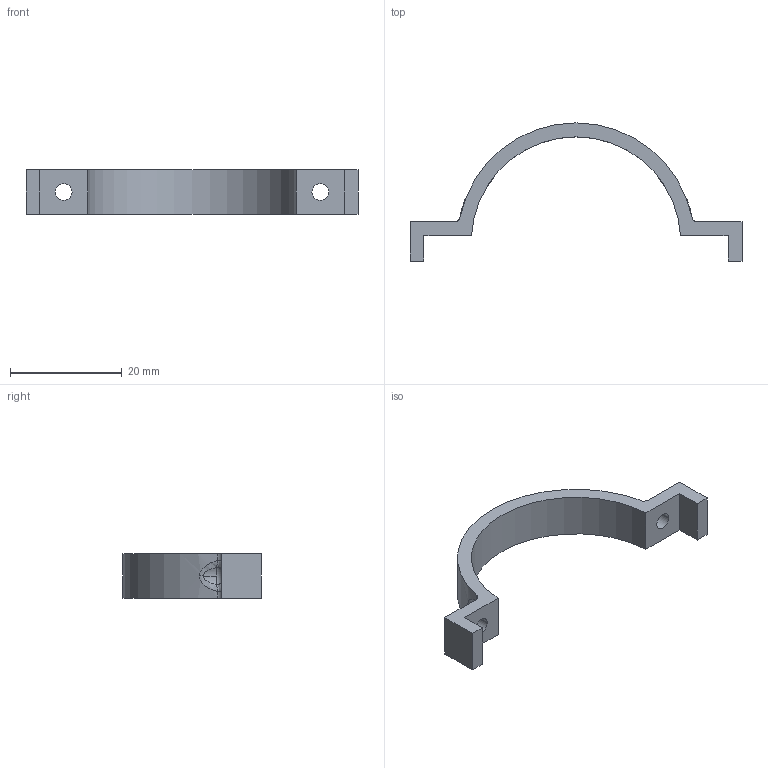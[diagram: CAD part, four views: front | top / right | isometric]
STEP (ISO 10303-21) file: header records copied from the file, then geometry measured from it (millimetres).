
FILE_DESCRIPTION(('CATIA V5 STEP Exchange'),'2;1');
FILE_NAME('X:\XDrive\---CAD---\--- 3D Drucker ---\K40\LuftPumpe\Luftpumpe_Halter_Oberteil.stp','2023-03-30T18:29:02+00:00',('none'),('none'),'CATIA Version 5 Release 19 SP 2 (IN-10)','CATIA V5 STEP AP203','none');
FILE_SCHEMA(('CONFIG_CONTROL_DESIGN'));
Length unit declared in the file: millimetre
Products named in the file (1): Luftpumpe_Halter_Oberteil
Bounding box: 59.5 x 24.75 x 8 mm (x, y, z)
Volume: 1698.8 mm3; surface area: 1889.4 mm2
Topology: 1 solids, 1 shells, 36 faces, 94 edges, 60 vertices
Faces by surface type: cylinder 14, plane 12, bspline 8, torus 2
Entity records: 1629 total; most frequent: CARTESIAN_POINT 800, ORIENTED_EDGE 188, DIRECTION 110, EDGE_CURVE 94, VERTEX_POINT 60, AXIS2_PLACEMENT_3D 46, VECTOR 44, LINE 44
